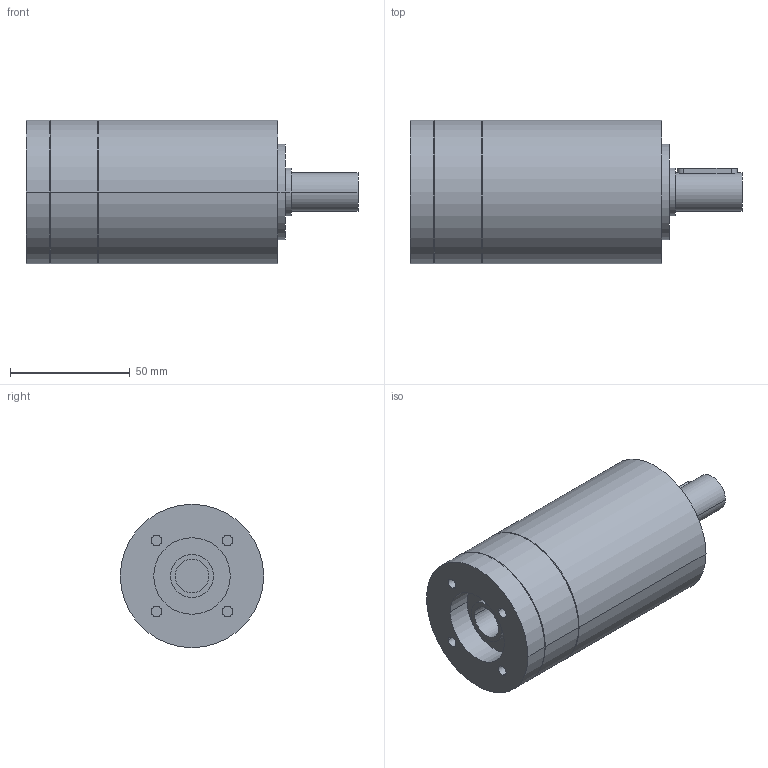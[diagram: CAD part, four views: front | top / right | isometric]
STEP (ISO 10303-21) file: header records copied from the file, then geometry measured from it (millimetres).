
FILE_DESCRIPTION(('CoCreate Modeling STEP Export'),'2;1');
FILE_NAME('GPR75_ig-9-12-16-20-24-30-36_16_B14_14_P11.stp','2014-08-25T16:45:14',(''),(''),'CoCreate Modeling STEP processor for AP214 (Solid Model)','CoCreate Modeling 16.00C 25-Feb-2009 (C) Parametric Technology GmbH','');
FILE_SCHEMA(('AUTOMOTIVE_DESIGN { 1 0 10303 214 1 1 1 1 }'));
Length unit declared in the file: millimetre
Products named in the file (2): GPR75_ig-9-12-16-20-24-30-36_16_B14_14_P11
Assembly tree (1 placements, depth 2):
  GPR75_ig-9-12-16-20-24-30-36_16_B14_14_P11
    GPR75_ig-9-12-16-20-24-30-36_16_B14_14_P11
Bounding box: 138.9 x 60 x 60 mm (x, y, z)
Volume: 295033.1 mm3; surface area: 32027.5 mm2
Topology: 1 solids, 1 shells, 77 faces, 196 edges, 140 vertices
Faces by surface type: cylinder 46, plane 25, cone 6
Entity records: 1966 total; most frequent: ORIENTED_EDGE 388, CARTESIAN_POINT 360, DIRECTION 254, EDGE_CURVE 194, VERTEX_POINT 140, AXIS2_PLACEMENT_3D 98, EDGE_LOOP 98, FACE_OUTER_BOUND 77
